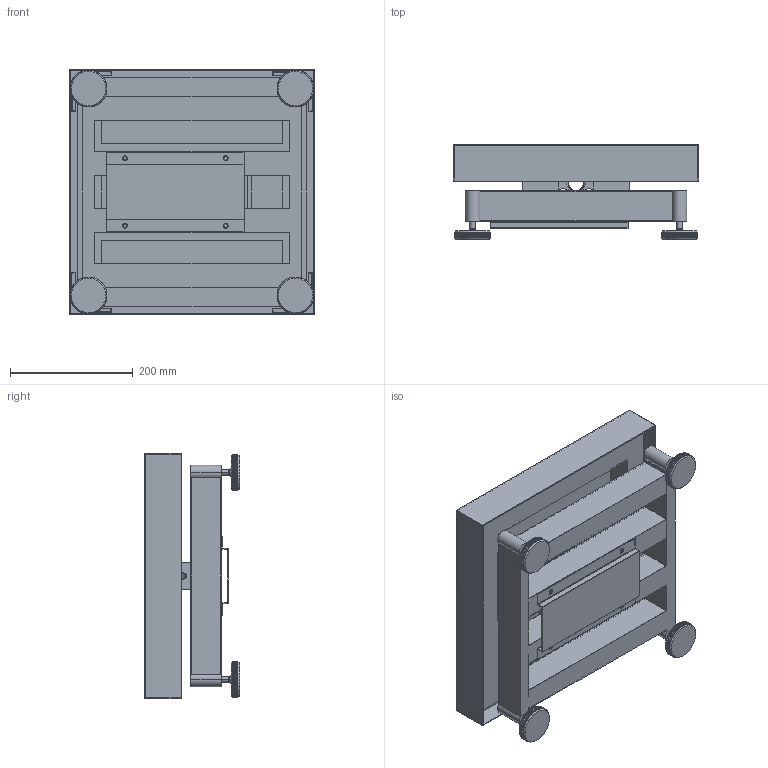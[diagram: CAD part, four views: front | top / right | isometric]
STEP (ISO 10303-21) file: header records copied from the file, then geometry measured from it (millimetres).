
FILE_DESCRIPTION((''),'1');
FILE_NAME('LELB_400x400_60-150_kg.step','2023-02-06T16:25:54',(''),(''),'','','');
FILE_SCHEMA(('AUTOMOTIVE_DESIGN { 1 0 10303 214 1 1 1 1 }'));
Products named in the file (11): LELB 400x400_60-150_kg; LELB cover 01; LELB part 02; LELB part 03; LELB part 05; LELB part 06; LELB load cell 01; LELB part 07; LELB part 08; LELB plate 01; LELB part 10
Assembly tree (21 placements, depth 3):
  LELB 400x400_60-150_kg
    LELB cover 01
    LELB part 02
      LELB part 03  x6
      LELB part 05  x4
      LELB part 06
    LELB load cell 01
    LELB part 07
      LELB part 08
      LELB plate 01
    LELB part 10  x4
Bounding box: 400 x 155 x 400 mm (x, y, z)
Volume: 2076045.6 mm3; surface area: 1949393 mm2
Topology: 19 solids, 27 shells, 3376 faces, 8368 edges, 4937 vertices
Faces by surface type: cylinder 1694, plane 1343, sphere 160, torus 102, cone 53, revolution 24
Entity records: 38348 total; most frequent: DIRECTION 6722, CARTESIAN_POINT 5804, ORIENTED_EDGE 5548, AXIS2_PLACEMENT_3D 2817, EDGE_CURVE 2776, VERTEX_POINT 1711, CIRCLE 1684, EDGE_LOOP 1261
